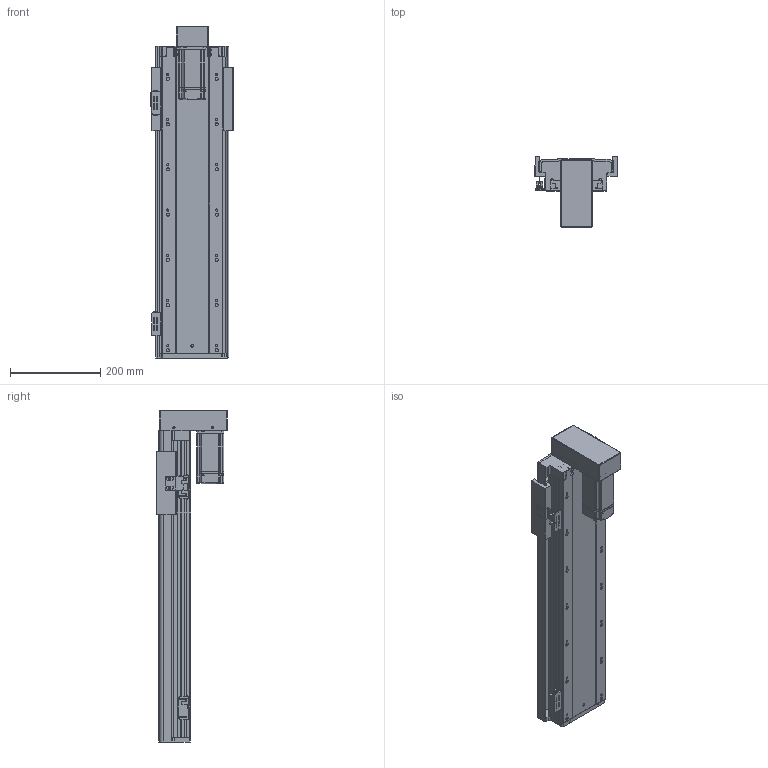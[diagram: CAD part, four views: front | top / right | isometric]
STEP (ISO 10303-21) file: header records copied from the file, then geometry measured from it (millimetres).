
FILE_DESCRIPTION (( 'STEP AP203' ), '1' );
FILE_NAME ('RY140FB-L2010-300-BK.SLDASM_450.step', '2021-02-23T02:28:44', ( '盈信电脑' ), ( '东莞市道滘镇水果街19号' ), 'SwSTEP 2.0', 'SolidWorks 2012', '' );
FILE_SCHEMA (( 'CONFIG_CONTROL_DESIGN' ));
Length unit declared in the file: millimetre
Products named in the file (17): RY140FB-L2010-300-BK.SLDASM_450; RY140直线电机感应器674光电安装座; RY140-674嫖萇耀輸; RY140FB-覜茼え; 覜茼ん674; RY140FB-20佪裝臏賑輸; RY140FB-300蛌殏奻裔啣-BK_450; RY140FB-狟殏萇儂假蚾啣; RY140狟殏萇儂欶; 侂狟400W侜督萇儂; 15; 滅袉蝶18-10; 滅袉蝶18-24; RY140FB-转折电机端支撑座(7002); RY140FB-綴裔啣; RY140FB-300蛌殏倰第菁釱-BK_450
Assembly tree (20 placements, depth 3):
  RY140FB-L2010-300-BK.SLDASM_450
    RY140FB-300蛌殏倰第菁釱-BK_450
    RY140FB-綴裔啣
    滅袉蝶18-24  x2
    滅袉蝶18-10
    RY140FB-转折电机端支撑座(7002)
    侂狟400W侜督萇儂
      15
    RY140狟殏萇儂欶
    RY140FB-狟殏萇儂假蚾啣
    RY140FB-20佪裝臏賑輸
    RY140FB-300蛌殏奻裔啣-BK_450
    RY140-674嫖萇耀輸
      覜茼ん674  x2
      RY140直线电机感应器674光电安装座
    RY140-674嫖萇耀輸
      RY140直线电机感应器674光电安装座
      覜茼ん674
    RY140FB-覜茼え
Bounding box: 183 x 156 x 734 mm (x, y, z)
Volume: 3185278.5 mm3; surface area: 1021204.1 mm2
Topology: 17 solids, 17 shells, 1718 faces, 4705 edges, 3001 vertices
Faces by surface type: cylinder 817, plane 723, cone 150, bspline 28
Entity records: 51743 total; most frequent: CARTESIAN_POINT 10419, DIRECTION 8370, ORIENTED_EDGE 8158, EDGE_CURVE 4079, AXIS2_PLACEMENT_3D 3008, VERTEX_POINT 2669, VECTOR 2354, LINE 2354
